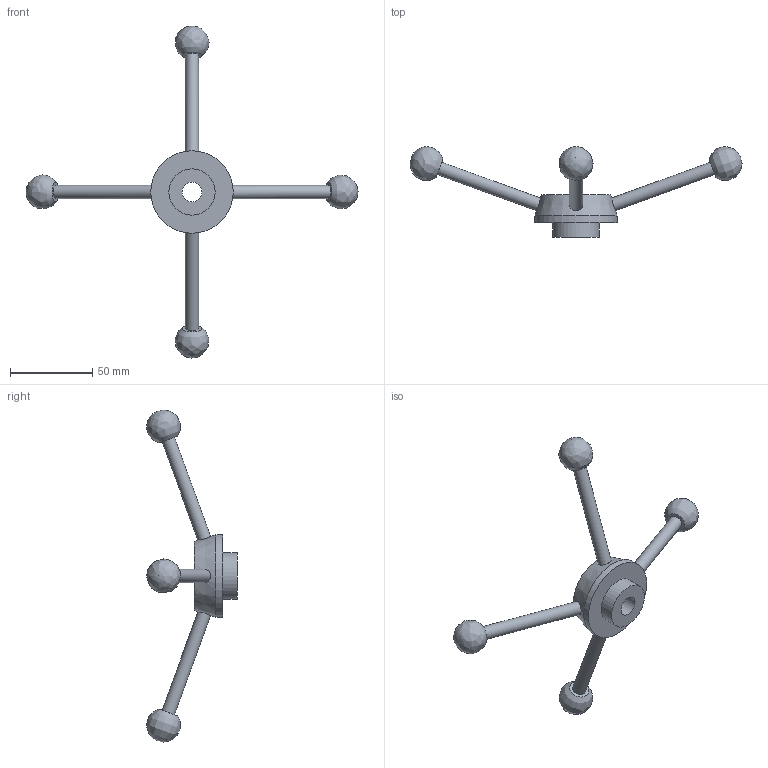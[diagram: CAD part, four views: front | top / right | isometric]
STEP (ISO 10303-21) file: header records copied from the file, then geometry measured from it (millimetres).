
FILE_DESCRIPTION( ( 'STEP AP203' ), '1' );
FILE_NAME( 'C:/Temp/Ganter_Step_05_03_2020/data/2_1/gn_213/gn_213_b/Turret lever GN 213-50-B12.stp', '2020-03-05T11:50:56', ( 'License CC BY-ND 4.0' ), ( 'CADENAS' ), ' ', 'PARTsolutions', ' ' );
FILE_SCHEMA( ( 'CONFIG_CONTROL_DESIGN' ) );
Length unit declared in the file: millimetre
Products named in the file (1): _Turret lever GN 213-50-B12
Bounding box: 201.3 x 55 x 201.3 mm (x, y, z)
Volume: 62646.2 mm3; surface area: 18767 mm2
Topology: 1 solids, 1 shells, 19 faces, 42 edges, 29 vertices
Faces by surface type: cylinder 7, plane 7, bspline 4, cone 1
Full cylindrical faces by diameter (mm): 8 x4, 12 x1, 28 x1, 50 x1
Entity records: 788 total; most frequent: CARTESIAN_POINT 430, DIRECTION 62, EDGE_LOOP 38, ORIENTED_EDGE 38, AXIS2_PLACEMENT_3D 31, FACE_OUTER_BOUND 26, VERTEX_POINT 23, ADVANCED_FACE 19
